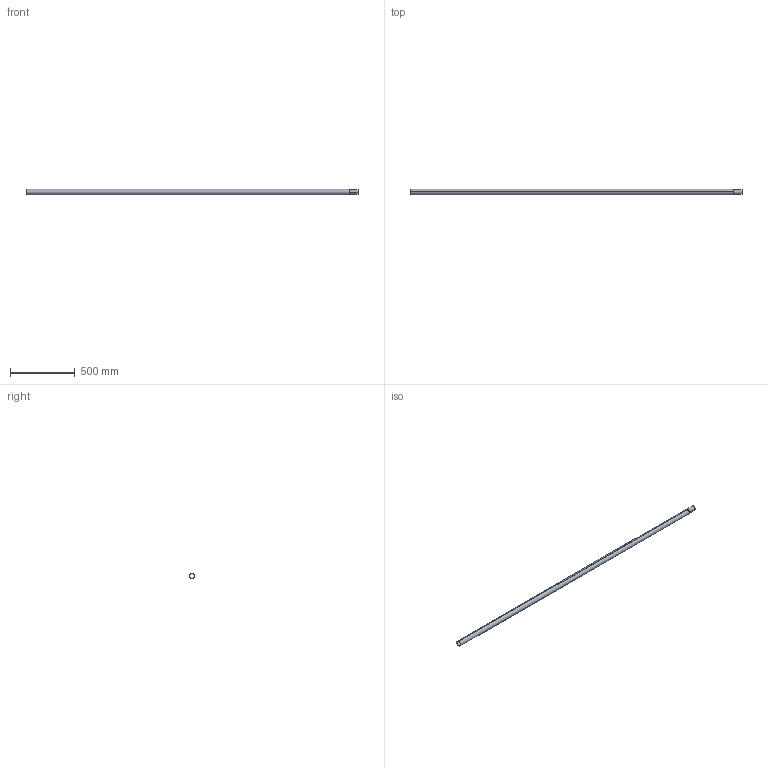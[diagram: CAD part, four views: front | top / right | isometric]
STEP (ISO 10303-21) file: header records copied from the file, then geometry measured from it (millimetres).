
FILE_DESCRIPTION (( 'STEP AP203' ), '1' );
FILE_NAME ('Rostfritt rör Ø42x1,5 L_2500.STEP', '2014-09-26T06:28:54', ( '' ), ( '' ), 'SwSTEP 2.0', 'SolidWorks 2014', '' );
FILE_SCHEMA (( 'CONFIG_CONTROL_DESIGN' ));
Length unit declared in the file: millimetre
Products named in the file (1): Rostfritt rör Ø42x1,5 L_2500
Bounding box: 2564 x 42 x 42 mm (x, y, z)
Volume: 488216 mm3; surface area: 651317.5 mm2
Topology: 1 solids, 1 shells, 14 faces, 32 edges, 20 vertices
Faces by surface type: cylinder 8, cone 4, plane 2
Entity records: 485 total; most frequent: DIRECTION 82, CARTESIAN_POINT 67, ORIENTED_EDGE 64, AXIS2_PLACEMENT_3D 35, EDGE_CURVE 32, CIRCLE 20, VERTEX_POINT 20, EDGE_LOOP 16
